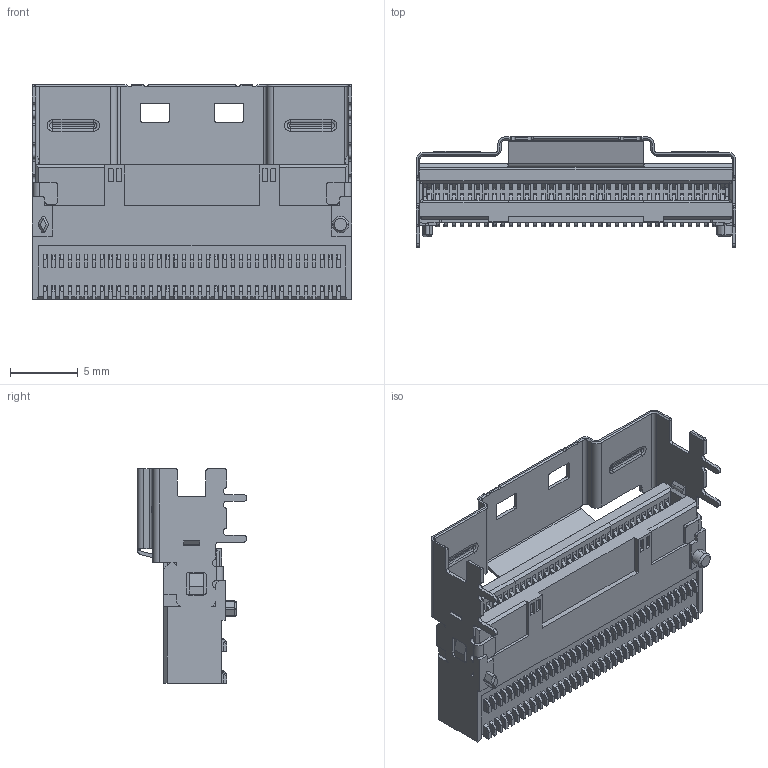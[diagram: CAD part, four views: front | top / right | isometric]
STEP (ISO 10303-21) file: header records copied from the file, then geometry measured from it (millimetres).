
FILE_DESCRIPTION((''),'2;1');
FILE_NAME('PLS060-7443-B01-1H-CUSTOMER','2026-07-11T12:06:55',('31000862'),(''),'CREO PARAMETRIC BY PTC INC, 2022244','CREO PARAMETRIC BY PTC INC, 2022244','');
FILE_SCHEMA(('AUTOMOTIVE_DESIGN { 1 0 10303 214 1 1 1 1 }'));
Products named in the file (1): PLS060-7443-B01-1H-CUSTOMER
Bounding box: 23.5 x 8.1 x 15.8 mm (x, y, z)
Volume: 861 mm3; surface area: 1795.1 mm2
Topology: 1 solids, 2 shells, 3939 faces, 10820 edges, 7008 vertices
Faces by surface type: plane 2873, cylinder 518, bspline 343, extrusion 185, cone 12, torus 8
Entity records: 138055 total; most frequent: CARTESIAN_POINT 40985, ORIENTED_EDGE 21632, DIRECTION 16933, EDGE_CURVE 10816, VECTOR 8857, LINE 8672, VERTEX_POINT 7008, EDGE_LOOP 4112
